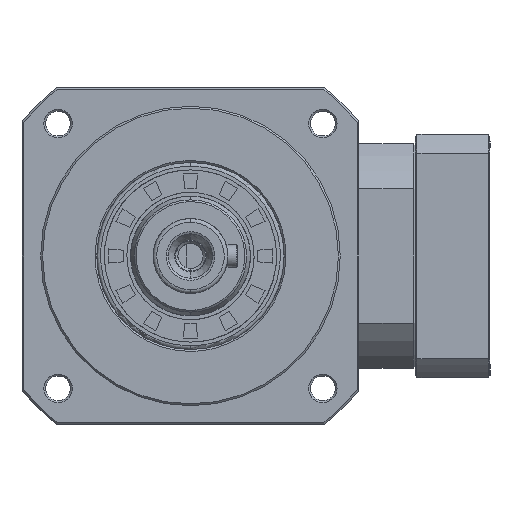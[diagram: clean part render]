
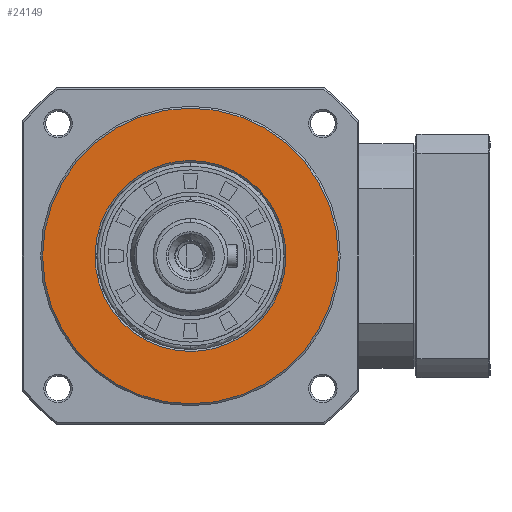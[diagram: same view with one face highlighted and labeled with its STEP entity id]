
A CAD part, left-side view. The second image highlights one B-rep face of the part: STEP entity #24149.
In plain terms, the highlighted planar face has unit normal (1, 0, 0).
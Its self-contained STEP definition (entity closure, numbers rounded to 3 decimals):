
#1643 = CARTESIAN_POINT ( 'NONE',  ( 0., 0., 0. ) ) ;
#2498 = CARTESIAN_POINT ( 'NONE',  ( 0., 24.198, 8.216 ) ) ;
#4206 = CARTESIAN_POINT ( 'NONE',  ( 0., 1.669, 25.5 ) ) ;
#4520 = CARTESIAN_POINT ( 'NONE',  ( 0., 22.92, -11.3 ) ) ;
#4841 = CARTESIAN_POINT ( 'NONE',  ( 0., 8.216, -24.198 ) ) ;
#5985 = CIRCLE ( 'NONE', #12545, 39.5 ) ;
#6996 = EDGE_CURVE ( 'NONE', #59471, #17922, #36121, .T. ) ;
#10066 = EDGE_CURVE ( 'NONE', #17922, #59471, #67416, .T. ) ;
#10170 = CARTESIAN_POINT ( 'NONE',  ( 0., 11.3, 22.92 ) ) ;
#12545 = AXIS2_PLACEMENT_3D ( 'NONE', #1643, #17357, #32658 ) ;
#12561 = CARTESIAN_POINT ( 'NONE',  ( 0., 11.3, -22.92 ) ) ;
#13730 = CARTESIAN_POINT ( 'NONE',  ( 0., -25.336, 3.338 ) ) ;
#14353 = CARTESIAN_POINT ( 'NONE',  ( 0., -20.275, -15.555 ) ) ;
#17357 = DIRECTION ( 'NONE',  ( 1., 0., 0. ) ) ;
#17873 = CARTESIAN_POINT ( 'NONE',  ( 0., 3.338, 25.336 ) ) ;
#17922 = VERTEX_POINT ( 'NONE', #47706 ) ;
#18943 = ORIENTED_EDGE ( 'NONE', *, *, #10066, .F. ) ;
#19175 = DIRECTION ( 'NONE',  ( 0., 0., -1. ) ) ;
#19915 = CARTESIAN_POINT ( 'NONE',  ( 0., 15.555, -20.275 ) ) ;
#20227 = CARTESIAN_POINT ( 'NONE',  ( 0., 16.851, 19.211 ) ) ;
#20574 = CARTESIAN_POINT ( 'NONE',  ( 0., 22.13, -12.779 ) ) ;
#21382 = CARTESIAN_POINT ( 'NONE',  ( 0., -22.92, -11.3 ) ) ;
#22045 = CARTESIAN_POINT ( 'NONE',  ( 0., -25.5, -1.669 ) ) ;
#22352 = CARTESIAN_POINT ( 'NONE',  ( 0., -3.338, 25.336 ) ) ;
#24149 = ADVANCED_FACE ( 'NONE', ( #96576, #44029 ), #25842, .T. ) ;
#24418 = CIRCLE ( 'NONE', #72624, 39.5 ) ;
#25097 = DIRECTION ( 'NONE',  ( 0., 0., -1. ) ) ;
#25842 = PLANE ( 'NONE',  #67909 ) ;
#27578 = CARTESIAN_POINT ( 'NONE',  ( 0., 12.779, -22.13 ) ) ;
#27918 = CARTESIAN_POINT ( 'NONE',  ( 0., 6.612, -24.684 ) ) ;
#28231 = CARTESIAN_POINT ( 'NONE',  ( 0., 24.198, -8.216 ) ) ;
#28721 = CARTESIAN_POINT ( 'NONE',  ( 0., -22.92, 11.3 ) ) ;
#29055 = CARTESIAN_POINT ( 'NONE',  ( 0., -6.612, -24.684 ) ) ;
#29598 = CARTESIAN_POINT ( 'NONE',  ( 0., 0., -25.5 ) ) ;
#32358 = EDGE_CURVE ( 'NONE', #97941, #44933, #5985, .T. ) ;
#32658 = DIRECTION ( 'NONE',  ( 0., 0., -1. ) ) ;
#33838 = CARTESIAN_POINT ( 'NONE',  ( 0., -39.974, 39.974 ) ) ;
#34557 = CARTESIAN_POINT ( 'NONE',  ( 0., 25.336, 3.338 ) ) ;
#34882 = CARTESIAN_POINT ( 'NONE',  ( 0., 19.211, 16.851 ) ) ;
#35421 = CARTESIAN_POINT ( 'NONE',  ( 0., 0., -39.5 ) ) ;
#36121 = B_SPLINE_CURVE_WITH_KNOTS ( 'NONE', 3,
 ( #43201, #86179, #80261, #27918, #4841, #12561, #27578, #19915, #71134, #58516, #57870, #20574, #4520, #28231, #87894, #81237, #65866, #81567, #34557, #48131, #2498, #42208, #88887, #96622, #34882, #20227, #55824, #95625, #10170, #95967, #63499, #17873, #4206, #80592 ),
 .UNSPECIFIED., .F., .F.,
 ( 4, 2, 2, 2, 2, 2, 2, 2, 2, 2, 2, 2, 2, 2, 2, 2, 4 ),
 ( 0.5, 0.531, 0.563, 0.594, 0.625, 0.656, 0.688, 0.719, 0.75, 0.781, 0.813, 0.844, 0.875, 0.906, 0.938, 0.969, 1. ),
 .UNSPECIFIED. ) ;
#36980 = CARTESIAN_POINT ( 'NONE',  ( 0., -20.275, 15.555 ) ) ;
#37308 = CARTESIAN_POINT ( 'NONE',  ( 0., -6.612, 24.684 ) ) ;
#37635 = CARTESIAN_POINT ( 'NONE',  ( 0., -15.555, 20.275 ) ) ;
#42208 = CARTESIAN_POINT ( 'NONE',  ( 0., 22.92, 11.3 ) ) ;
#43201 = CARTESIAN_POINT ( 'NONE',  ( 0., 0., -25.5 ) ) ;
#44002 = CARTESIAN_POINT ( 'NONE',  ( 0., -24.198, -8.216 ) ) ;
#44029 = FACE_OUTER_BOUND ( 'NONE', #59698, .T. ) ;
#44933 = VERTEX_POINT ( 'NONE', #35421 ) ;
#44978 = CARTESIAN_POINT ( 'NONE',  ( 0., -12.779, -22.13 ) ) ;
#45286 = CARTESIAN_POINT ( 'NONE',  ( 0., -12.779, 22.13 ) ) ;
#47706 = CARTESIAN_POINT ( 'NONE',  ( 0., 0., 25.5 ) ) ;
#48131 = CARTESIAN_POINT ( 'NONE',  ( 0., 24.684, 6.612 ) ) ;
#52008 = CARTESIAN_POINT ( 'NONE',  ( 0., 0., 25.5 ) ) ;
#52330 = CARTESIAN_POINT ( 'NONE',  ( 0., -22.13, -12.779 ) ) ;
#52977 = CARTESIAN_POINT ( 'NONE',  ( 0., -11.3, 22.92 ) ) ;
#55577 = ORIENTED_EDGE ( 'NONE', *, *, #6996, .F. ) ;
#55824 = CARTESIAN_POINT ( 'NONE',  ( 0., 15.555, 20.275 ) ) ;
#57870 = CARTESIAN_POINT ( 'NONE',  ( 0., 20.275, -15.555 ) ) ;
#58516 = CARTESIAN_POINT ( 'NONE',  ( 0., 19.211, -16.851 ) ) ;
#59343 = CARTESIAN_POINT ( 'NONE',  ( 0., -8.216, 24.198 ) ) ;
#59471 = VERTEX_POINT ( 'NONE', #29598 ) ;
#59673 = CARTESIAN_POINT ( 'NONE',  ( 0., -8.216, -24.198 ) ) ;
#59698 = EDGE_LOOP ( 'NONE', ( #64790, #85044 ) ) ;
#60327 = CARTESIAN_POINT ( 'NONE',  ( 0., -19.211, -16.851 ) ) ;
#60659 = CARTESIAN_POINT ( 'NONE',  ( 0., -1.669, 25.5 ) ) ;
#63372 = CARTESIAN_POINT ( 'NONE',  ( 0., 0., 0. ) ) ;
#63499 = CARTESIAN_POINT ( 'NONE',  ( 0., 6.612, 24.684 ) ) ;
#64790 = ORIENTED_EDGE ( 'NONE', *, *, #94660, .T. ) ;
#65866 = CARTESIAN_POINT ( 'NONE',  ( 0., 25.5, -1.669 ) ) ;
#66679 = CARTESIAN_POINT ( 'NONE',  ( 0., -22.13, 12.779 ) ) ;
#66993 = CARTESIAN_POINT ( 'NONE',  ( 0., -25.336, -3.338 ) ) ;
#67416 = B_SPLINE_CURVE_WITH_KNOTS ( 'NONE', 3,
 ( #52008, #60659, #22352, #37308, #59343, #52977, #45286, #37635, #97445, #89720, #36980, #66679, #28721, #90684, #90049, #13730, #82061, #22045, #66993, #98082, #44002, #21382, #52330, #14353, #60327, #98733, #75676, #44978, #74678, #59673, #29055, #82384, #75346, #67644 ),
 .UNSPECIFIED., .F., .F.,
 ( 4, 2, 2, 2, 2, 2, 2, 2, 2, 2, 2, 2, 2, 2, 2, 2, 4 ),
 ( 0., 0.031, 0.063, 0.094, 0.125, 0.156, 0.188, 0.219, 0.25, 0.281, 0.313, 0.344, 0.375, 0.406, 0.438, 0.469, 0.5 ),
 .UNSPECIFIED. ) ;
#67644 = CARTESIAN_POINT ( 'NONE',  ( 0., 0., -25.5 ) ) ;
#67909 = AXIS2_PLACEMENT_3D ( 'NONE', #33838, #72109, #19175 ) ;
#71134 = CARTESIAN_POINT ( 'NONE',  ( 0., 16.851, -19.211 ) ) ;
#72109 = DIRECTION ( 'NONE',  ( 1., 0., 0. ) ) ;
#72624 = AXIS2_PLACEMENT_3D ( 'NONE', #63372, #93755, #25097 ) ;
#74678 = CARTESIAN_POINT ( 'NONE',  ( 0., -11.3, -22.92 ) ) ;
#75346 = CARTESIAN_POINT ( 'NONE',  ( 0., -1.669, -25.5 ) ) ;
#75676 = CARTESIAN_POINT ( 'NONE',  ( 0., -15.555, -20.275 ) ) ;
#79392 = CARTESIAN_POINT ( 'NONE',  ( 0., 0., 39.5 ) ) ;
#80261 = CARTESIAN_POINT ( 'NONE',  ( 0., 3.338, -25.336 ) ) ;
#80592 = CARTESIAN_POINT ( 'NONE',  ( 0., 0., 25.5 ) ) ;
#81237 = CARTESIAN_POINT ( 'NONE',  ( 0., 25.336, -3.338 ) ) ;
#81567 = CARTESIAN_POINT ( 'NONE',  ( 0., 25.5, 1.669 ) ) ;
#82061 = CARTESIAN_POINT ( 'NONE',  ( 0., -25.5, 1.669 ) ) ;
#82384 = CARTESIAN_POINT ( 'NONE',  ( 0., -3.338, -25.336 ) ) ;
#85044 = ORIENTED_EDGE ( 'NONE', *, *, #32358, .T. ) ;
#86179 = CARTESIAN_POINT ( 'NONE',  ( 0., 1.669, -25.5 ) ) ;
#86189 = EDGE_LOOP ( 'NONE', ( #18943, #55577 ) ) ;
#87894 = CARTESIAN_POINT ( 'NONE',  ( 0., 24.684, -6.612 ) ) ;
#88887 = CARTESIAN_POINT ( 'NONE',  ( 0., 22.13, 12.779 ) ) ;
#89720 = CARTESIAN_POINT ( 'NONE',  ( 0., -19.211, 16.851 ) ) ;
#90049 = CARTESIAN_POINT ( 'NONE',  ( 0., -24.684, 6.612 ) ) ;
#90684 = CARTESIAN_POINT ( 'NONE',  ( 0., -24.198, 8.216 ) ) ;
#93755 = DIRECTION ( 'NONE',  ( 1., 0., 0. ) ) ;
#94660 = EDGE_CURVE ( 'NONE', #44933, #97941, #24418, .T. ) ;
#95625 = CARTESIAN_POINT ( 'NONE',  ( 0., 12.779, 22.13 ) ) ;
#95967 = CARTESIAN_POINT ( 'NONE',  ( 0., 8.216, 24.198 ) ) ;
#96576 = FACE_BOUND ( 'NONE', #86189, .T. ) ;
#96622 = CARTESIAN_POINT ( 'NONE',  ( 0., 20.275, 15.555 ) ) ;
#97445 = CARTESIAN_POINT ( 'NONE',  ( 0., -16.851, 19.211 ) ) ;
#97941 = VERTEX_POINT ( 'NONE', #79392 ) ;
#98082 = CARTESIAN_POINT ( 'NONE',  ( 0., -24.684, -6.612 ) ) ;
#98733 = CARTESIAN_POINT ( 'NONE',  ( 0., -16.851, -19.211 ) ) ;
